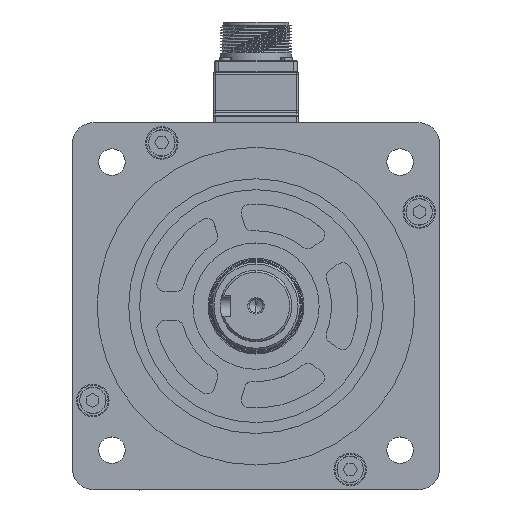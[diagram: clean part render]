
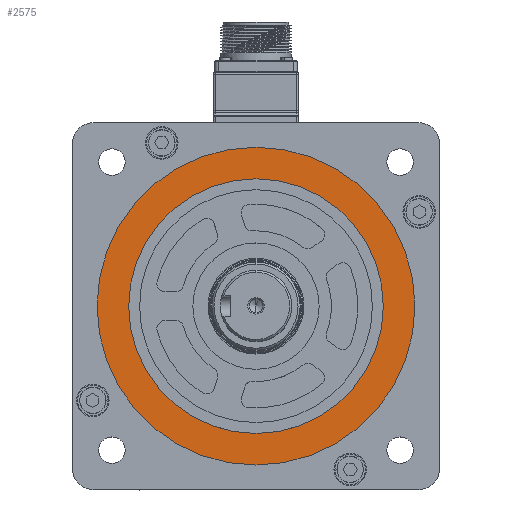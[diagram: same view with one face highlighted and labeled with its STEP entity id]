
A CAD part, top view. The second image highlights one B-rep face of the part: STEP entity #2575.
In plain terms, the highlighted planar face has unit normal (0, 0, 1) as drawn and (1, 0, 0) by its records, which use the part's own axes.
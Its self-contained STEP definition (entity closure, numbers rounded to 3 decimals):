
#752 = DIRECTION ( 'NONE',  ( 0., 0., 1. ) ) ;
#875 = FACE_BOUND ( 'NONE', #32915, .T. ) ;
#1122 = AXIS2_PLACEMENT_3D ( 'NONE', #40932, #11644, #752 ) ;
#2575 = ADVANCED_FACE ( 'NONE', ( #28943, #875 ), #44656, .F. ) ;
#4356 = ORIENTED_EDGE ( 'NONE', *, *, #18625, .F. ) ;
#5116 = CIRCLE ( 'NONE', #27456, 62.5 ) ;
#6955 = VERTEX_POINT ( 'NONE', #25617 ) ;
#8953 = ORIENTED_EDGE ( 'NONE', *, *, #25391, .T. ) ;
#10259 = CARTESIAN_POINT ( 'NONE',  ( 22.02, 0., 62.5 ) ) ;
#11644 = DIRECTION ( 'NONE',  ( -1., 0., 0. ) ) ;
#12713 = CARTESIAN_POINT ( 'NONE',  ( 22.02, 0., 0. ) ) ;
#12804 = DIRECTION ( 'NONE',  ( -1., 0., 0. ) ) ;
#13053 = DIRECTION ( 'NONE',  ( -1., 0., 0. ) ) ;
#13407 = VERTEX_POINT ( 'NONE', #10259 ) ;
#15446 = CIRCLE ( 'NONE', #30822, 62.5 ) ;
#16375 = CIRCLE ( 'NONE', #39392, 78. ) ;
#16402 = DIRECTION ( 'NONE',  ( 0., 0., 1. ) ) ;
#18301 = AXIS2_PLACEMENT_3D ( 'NONE', #35022, #13053, #38677 ) ;
#18491 = CARTESIAN_POINT ( 'NONE',  ( 22.02, 0., 0. ) ) ;
#18625 = EDGE_CURVE ( 'NONE', #6955, #45366, #23988, .T. ) ;
#18932 = CARTESIAN_POINT ( 'NONE',  ( 22.02, 0., -62.5 ) ) ;
#18995 = EDGE_LOOP ( 'NONE', ( #4356, #33895 ) ) ;
#22190 = DIRECTION ( 'NONE',  ( 0., 0., 1. ) ) ;
#23988 = CIRCLE ( 'NONE', #18301, 78. ) ;
#25162 = EDGE_CURVE ( 'NONE', #34513, #13407, #15446, .T. ) ;
#25391 = EDGE_CURVE ( 'NONE', #13407, #34513, #5116, .T. ) ;
#25617 = CARTESIAN_POINT ( 'NONE',  ( 22.02, 0., 78. ) ) ;
#25858 = ORIENTED_EDGE ( 'NONE', *, *, #25162, .T. ) ;
#27456 = AXIS2_PLACEMENT_3D ( 'NONE', #12713, #38327, #16402 ) ;
#28943 = FACE_OUTER_BOUND ( 'NONE', #18995, .T. ) ;
#30822 = AXIS2_PLACEMENT_3D ( 'NONE', #18491, #44132, #22190 ) ;
#32915 = EDGE_LOOP ( 'NONE', ( #8953, #25858 ) ) ;
#33895 = ORIENTED_EDGE ( 'NONE', *, *, #36588, .F. ) ;
#34513 = VERTEX_POINT ( 'NONE', #18932 ) ;
#34762 = CARTESIAN_POINT ( 'NONE',  ( 22.02, 0., 0. ) ) ;
#35022 = CARTESIAN_POINT ( 'NONE',  ( 22.02, 0., 0. ) ) ;
#36588 = EDGE_CURVE ( 'NONE', #45366, #6955, #16375, .T. ) ;
#38327 = DIRECTION ( 'NONE',  ( -1., 0., 0. ) ) ;
#38426 = DIRECTION ( 'NONE',  ( 0., 0., 1. ) ) ;
#38677 = DIRECTION ( 'NONE',  ( 0., 0., 1. ) ) ;
#39392 = AXIS2_PLACEMENT_3D ( 'NONE', #34762, #12804, #38426 ) ;
#40932 = CARTESIAN_POINT ( 'NONE',  ( 22.02, 62.5, 0. ) ) ;
#43569 = CARTESIAN_POINT ( 'NONE',  ( 22.02, 0., -78. ) ) ;
#44132 = DIRECTION ( 'NONE',  ( -1., 0., 0. ) ) ;
#44656 = PLANE ( 'NONE',  #1122 ) ;
#45366 = VERTEX_POINT ( 'NONE', #43569 ) ;
